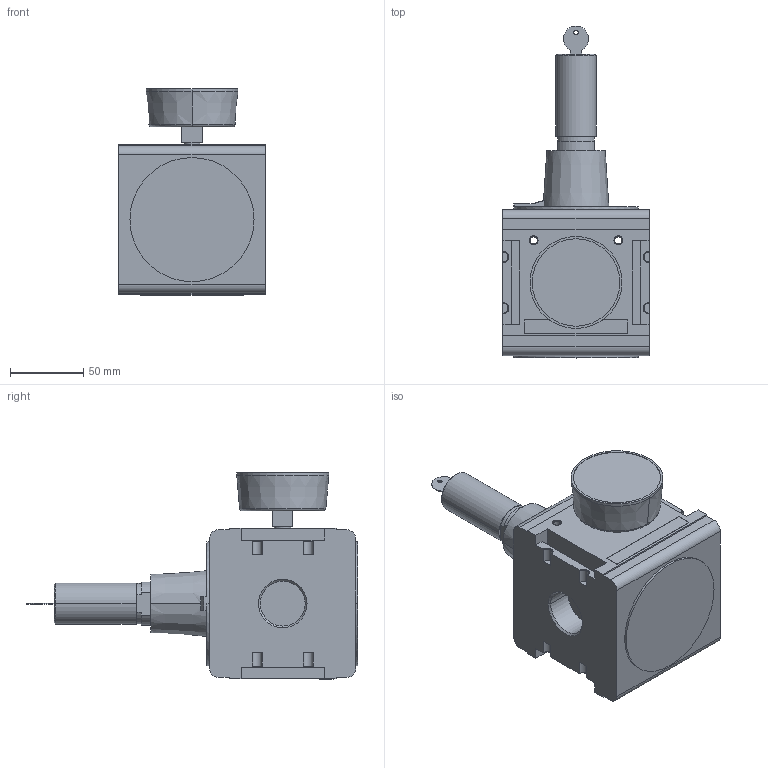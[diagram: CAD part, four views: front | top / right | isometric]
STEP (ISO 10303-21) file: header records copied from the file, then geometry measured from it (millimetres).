
FILE_DESCRIPTION((''),'2;1');
FILE_NAME('0821302808_ASM','2019-03-15T',('GIO1HC'),(''),'CREO PARAMETRIC BY PTC INC, 2016260','CREO PARAMETRIC BY PTC INC, 2016260','');
FILE_SCHEMA(('CONFIG_CONTROL_DESIGN'));
Length unit declared in the file: millimetre
Products named in the file (3): 0821302808-A; 1827231011; 0821302808_ASM
Assembly tree (2 placements, depth 2):
  0821302808_ASM
    0821302808-A
    1827231011
Bounding box: 100 x 227.28 x 141.2 mm (x, y, z)
Volume: 1153513.1 mm3; surface area: 96111.8 mm2
Topology: 2 solids, 2 shells, 192 faces, 479 edges, 310 vertices
Faces by surface type: plane 90, cylinder 65, cone 35, torus 2
Entity records: 5867 total; most frequent: DIRECTION 1042, CARTESIAN_POINT 1006, ORIENTED_EDGE 958, EDGE_CURVE 479, AXIS2_PLACEMENT_3D 370, VERTEX_POINT 310, VECTOR 302, LINE 302
